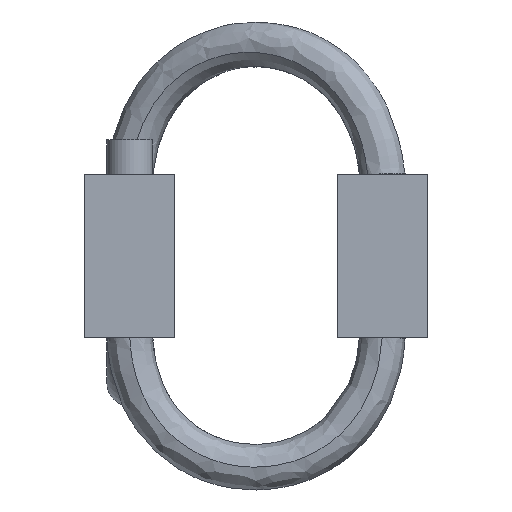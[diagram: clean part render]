
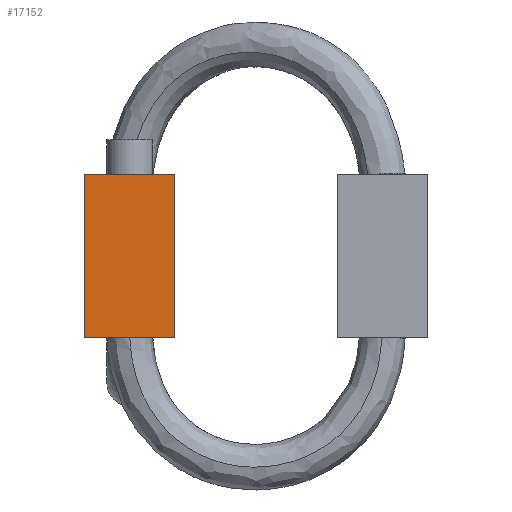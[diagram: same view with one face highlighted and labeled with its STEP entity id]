
A CAD part, left-side view. The second image highlights one B-rep face of the part: STEP entity #17152.
In plain terms, the highlighted planar face has unit normal (-1, 0, 0).
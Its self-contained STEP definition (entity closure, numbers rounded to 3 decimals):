
#454 = EDGE_CURVE ( 'NONE', #7097, #7227, #5150, .T. ) ;
#769 = CARTESIAN_POINT ( 'NONE',  ( -63.5, 15., -7.15 ) ) ;
#1833 = VECTOR ( 'NONE', #9406, 1000. ) ;
#2106 = VERTEX_POINT ( 'NONE', #7753 ) ;
#2249 = EDGE_CURVE ( 'NONE', #18157, #2106, #5791, .T. ) ;
#2477 = CARTESIAN_POINT ( 'NONE',  ( -63.5, 7.1, 7.15 ) ) ;
#2536 = VECTOR ( 'NONE', #5118, 1000. ) ;
#4657 = DIRECTION ( 'NONE',  ( 0., 0., 1. ) ) ;
#4709 = ORIENTED_EDGE ( 'NONE', *, *, #2249, .F. ) ;
#5118 = DIRECTION ( 'NONE',  ( 0., -1., 0. ) ) ;
#5150 = LINE ( 'NONE', #8310, #9100 ) ;
#5791 = LINE ( 'NONE', #20154, #1833 ) ;
#6172 = EDGE_LOOP ( 'NONE', ( #7820, #13152, #18730, #4709 ) ) ;
#6205 = EDGE_CURVE ( 'NONE', #2106, #7097, #17426, .T. ) ;
#6244 = CARTESIAN_POINT ( 'NONE',  ( -63.5, 15., -7.15 ) ) ;
#6823 = CARTESIAN_POINT ( 'NONE',  ( -63.5, 15., 7.15 ) ) ;
#7097 = VERTEX_POINT ( 'NONE', #6244 ) ;
#7227 = VERTEX_POINT ( 'NONE', #12172 ) ;
#7753 = CARTESIAN_POINT ( 'NONE',  ( -63.5, 7.1, -7.15 ) ) ;
#7820 = ORIENTED_EDGE ( 'NONE', *, *, #8032, .F. ) ;
#8032 = EDGE_CURVE ( 'NONE', #7227, #18157, #11036, .T. ) ;
#8237 = DIRECTION ( 'NONE',  ( 0., 0., 1. ) ) ;
#8310 = CARTESIAN_POINT ( 'NONE',  ( -63.5, 15., -7.15 ) ) ;
#9100 = VECTOR ( 'NONE', #8237, 1000. ) ;
#9406 = DIRECTION ( 'NONE',  ( 0., 0., -1. ) ) ;
#9710 = PLANE ( 'NONE',  #19244 ) ;
#11036 = LINE ( 'NONE', #6823, #2536 ) ;
#11431 = CARTESIAN_POINT ( 'NONE',  ( -63.5, 11.05, 0. ) ) ;
#12172 = CARTESIAN_POINT ( 'NONE',  ( -63.5, 15., 7.15 ) ) ;
#12925 = VECTOR ( 'NONE', #17773, 1000. ) ;
#13152 = ORIENTED_EDGE ( 'NONE', *, *, #454, .F. ) ;
#14832 = DIRECTION ( 'NONE',  ( -1., 0., 0. ) ) ;
#17152 = ADVANCED_FACE ( 'NONE', ( #21722 ), #9710, .T. ) ;
#17426 = LINE ( 'NONE', #769, #12925 ) ;
#17773 = DIRECTION ( 'NONE',  ( 0., 1., 0. ) ) ;
#18157 = VERTEX_POINT ( 'NONE', #2477 ) ;
#18730 = ORIENTED_EDGE ( 'NONE', *, *, #6205, .F. ) ;
#19244 = AXIS2_PLACEMENT_3D ( 'NONE', #11431, #14832, #4657 ) ;
#20154 = CARTESIAN_POINT ( 'NONE',  ( -63.5, 7.1, -7.15 ) ) ;
#21722 = FACE_OUTER_BOUND ( 'NONE', #6172, .T. ) ;
